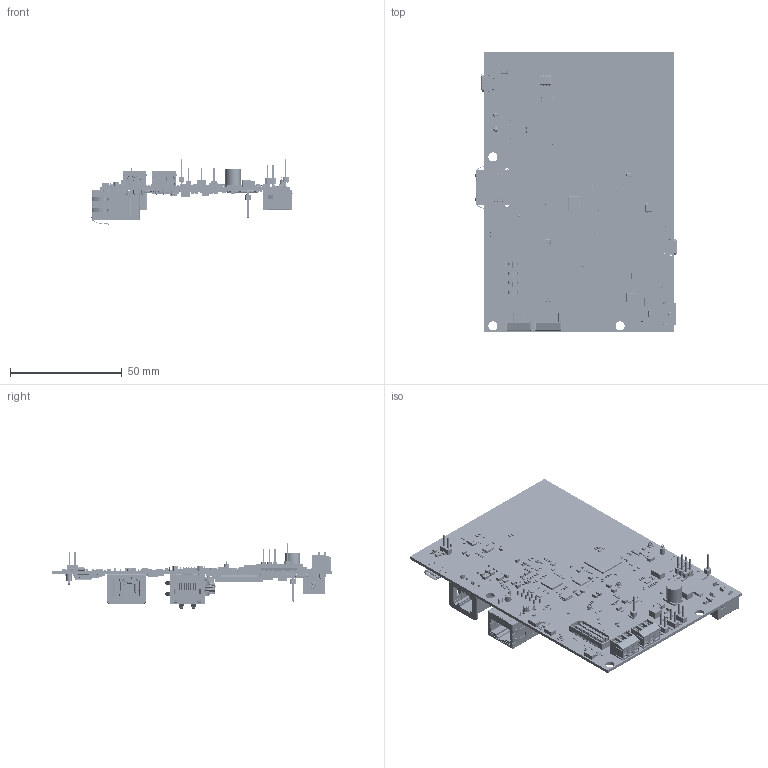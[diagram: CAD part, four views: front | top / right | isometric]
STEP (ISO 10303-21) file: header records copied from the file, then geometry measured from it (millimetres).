
FILE_DESCRIPTION(('Open CASCADE Model'),'2;1');
FILE_NAME('Open CASCADE Shape Model','2023-01-19T12:39:48',('Author'),( 'Open CASCADE'),'Open CASCADE STEP processor 6.8','Open CASCADE 6.8' ,'Unknown');
FILE_SCHEMA(('AUTOMOTIVE_DESIGN { 1 0 10303 214 1 1 1 1 }'));
Length unit declared in the file: millimetre
Products named in the file (1096): PCB; Board; R210; 6254187072; Extruded; 6254186880; C202; 6254585472; 6254585280; C201; R200; Res_HCJ0603ZT0R00_0603; terminal; substrate; top; logo; L10; 6254585088; 6254584896; C200; 6254186688; 6254186496; C199; C143; FB1; FBead_BLM18AG102SH1D_0603; body; side; Murata; R199; R116; C181; Cap_NFM18HC105C1C3D_0603; terminals; R73; FB2; FBead_BLM18KG601SH1_0603_(1608_Metric); 1; 2; Murata_Logo_3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
Assembly tree (2972 placements, depth 6):
  PCB
    Board
    R210
      6254187072  x2
        Extruded
      6254186880
        Extruded
    C202
      6254585472
        Extruded
      6254585280  x2
        Extruded
    C201
      6254585472
        Extruded
      6254585280  x2
        Extruded
    R200
      Res_HCJ0603ZT0R00_0603
        terminal
        substrate
        top
        logo
    L10
      6254585088
        Extruded
      6254584896
        Extruded
    C200
      6254186688  x2
        Extruded
      6254186496
        Extruded
    C199
      6254186688  x2
        Extruded
      6254186496
        Extruded
    C143
      6254585472
        Extruded
      6254585280  x2
        Extruded
    FB1
      FBead_BLM18AG102SH1D_0603
        body
        side  x2
        Murata
    R199
      6254186688  x2
        Extruded
      6254186496
        Extruded
    R116
      6254186688  x2
        Extruded
      6254186496
        Extruded
    C181
      Cap_NFM18HC105C1C3D_0603
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Bounding box: 89.92 x 125 x 29.36 mm (x, y, z)
Volume: 24116.7 mm3; surface area: 47969.5 mm2
Topology: 3445 solids, 3445 shells, 43799 faces, 112325 edges, 75735 vertices
Faces by surface type: plane 29373, bspline 7874, cylinder 5462, sphere 905, torus 144, cone 33, revolution 8
Full cylindrical faces by diameter (mm): 0.179 x1, 0.2 x2, 0.229 x1, 0.4 x2, 0.5 x5, 0.715 x2, 0.85 x4, 0.9 x16, 0.991 x1, 1 x8, 1.016 x10, 1.02 x8, 1.27 x1, 1.3 x6, 1.6 x1, 1.7 x2, 1.8 x1, 2 x1, 2.25 x2, 2.4 x6, 2.5 x8, 3.25 x2, 4.064 x3, 4.115 x1, 4.674 x1, 5.08 x1, 5.385 x1
Entity records: 548027 total; most frequent: CARTESIAN_POINT 126707, ORIENTED_EDGE 79672, DIRECTION 73527, EDGE_CURVE 39836, LINE 29519, VECTOR 29519, VERTEX_POINT 26238, AXIS2_PLACEMENT_3D 22002
